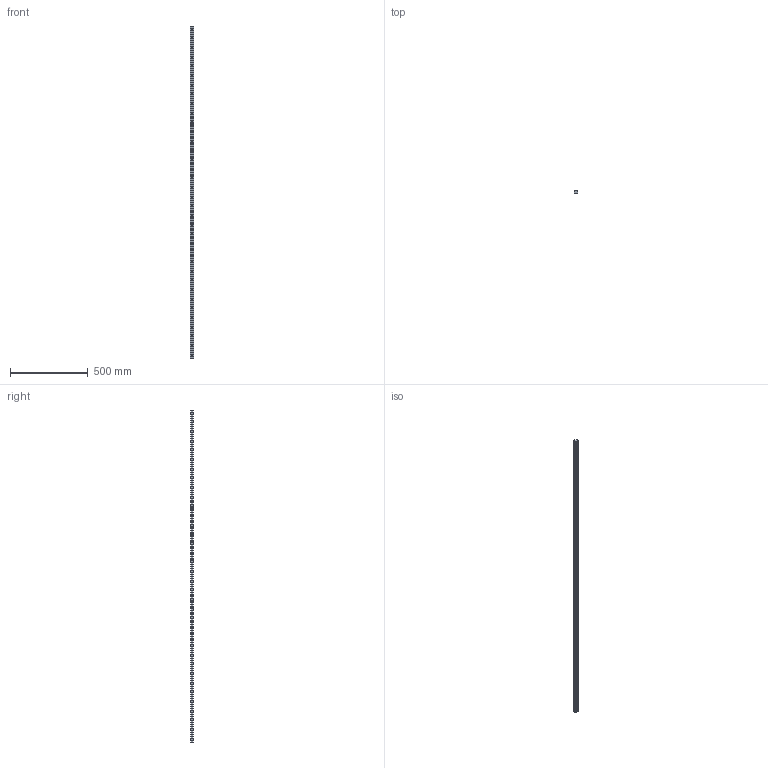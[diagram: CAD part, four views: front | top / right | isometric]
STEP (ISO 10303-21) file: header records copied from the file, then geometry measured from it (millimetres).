
FILE_DESCRIPTION (( 'STEP AP203' ), '1' );
FILE_NAME ('L1016.BRF25-2140.step', '2019-06-13T08:41:04', ( '' ), ( '' ), 'SwSTEP 2.0', 'SolidWorks 2017', '' );
FILE_SCHEMA (( 'CONFIG_CONTROL_DESIGN' ));
Length unit declared in the file: millimetre
Products named in the file (1): L1016.BRF25-2140
Bounding box: 23 x 19.2 x 2140 mm (x, y, z)
Volume: 817023.4 mm3; surface area: 197171.4 mm2
Topology: 1 solids, 1 shells, 278 faces, 648 edges, 372 vertices
Faces by surface type: cylinder 148, cone 72, plane 58
Entity records: 7525 total; most frequent: DIRECTION 1430, CARTESIAN_POINT 1227, ORIENTED_EDGE 1152, EDGE_CURVE 576, AXIS2_PLACEMENT_3D 575, VERTEX_POINT 372, EDGE_LOOP 350, CIRCLE 296
